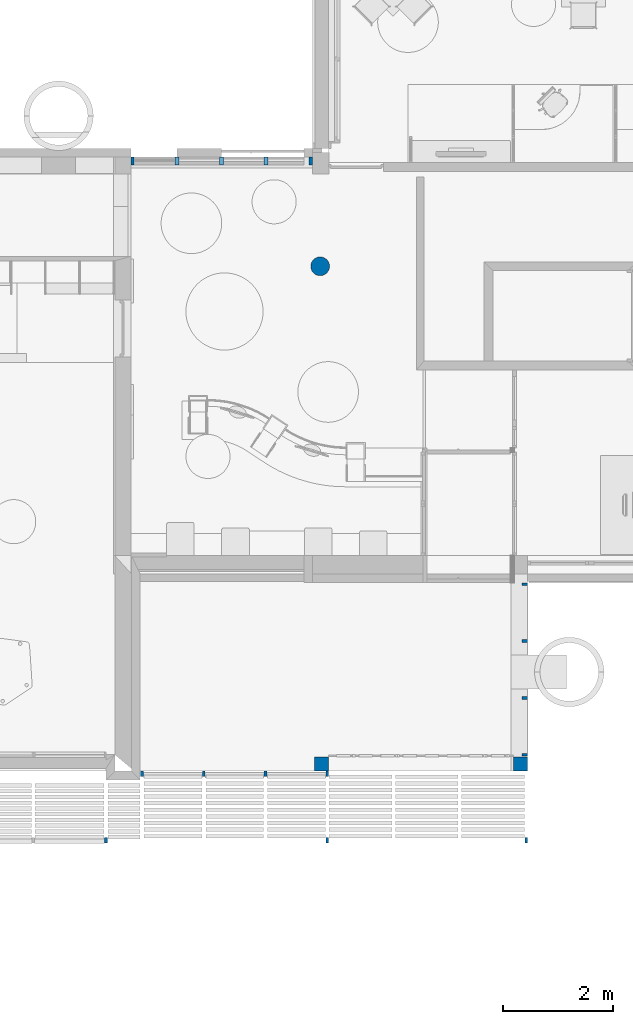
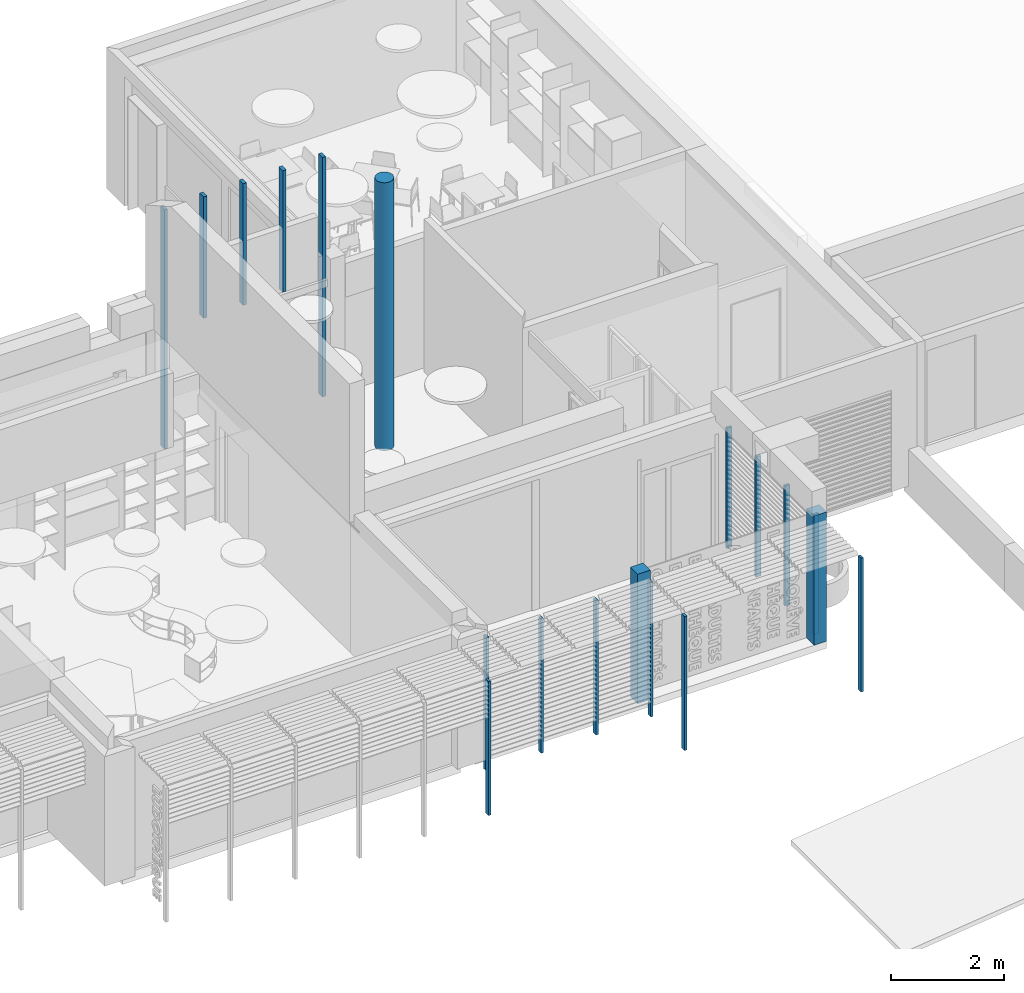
# One storey, part 5 of 64: 19 columns.
"""IFC2X3 building model written with IfcOpenShell, lengths in metres."""

from ifc_helpers import new_model, entity, si_unit, converted_unit, derived_unit, direction, frame, frame_2d, origin, origin_2d_with_axis, place, context, subcontext, project, spatial, rectangle, circle, extrude, source, transform, mapped, material, material_list, type_object, type_shapes, element, save


model = new_model("IFC2X3")

# Units and contexts
model_context = context("Model", 3, precision=1e-05, world=origin(), true_north=direction((6.123031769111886e-17, 1.0)))
body_context = subcontext(model_context, "Body", "Model", "MODEL_VIEW")
ifc_project = project(units=[si_unit("LENGTHUNIT", "METRE"), si_unit("AREAUNIT", "SQUARE_METRE"), si_unit("VOLUMEUNIT", "CUBIC_METRE"), converted_unit("PLANEANGLEUNIT", "DEGREE", entity("IfcRatioMeasure", 0.017453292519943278), si_unit("PLANEANGLEUNIT", "RADIAN"), dimensions=[0, 0, 0, 0, 0, 0, 0]), si_unit("MASSUNIT", "GRAM", prefix="KILO"), derived_unit("MASSDENSITYUNIT", [(si_unit("MASSUNIT", "GRAM", prefix="KILO"), 1), (si_unit("LENGTHUNIT", "METRE"), -3)]), derived_unit("MOMENTOFINERTIAUNIT", [(si_unit("LENGTHUNIT", "METRE"), 4)]), si_unit("TIMEUNIT", "SECOND"), si_unit("FREQUENCYUNIT", "HERTZ"), si_unit("THERMODYNAMICTEMPERATUREUNIT", "DEGREE_CELSIUS"), derived_unit("THERMALTRANSMITTANCEUNIT", [(si_unit("MASSUNIT", "GRAM", prefix="KILO"), 1), (si_unit("THERMODYNAMICTEMPERATUREUNIT", "KELVIN"), -1), (si_unit("TIMEUNIT", "SECOND"), -3)]), derived_unit("THERMALCONDUCTANCEUNIT", [(si_unit("MASSUNIT", "GRAM", prefix="KILO"), 1), (si_unit("LENGTHUNIT", "METRE"), 1), (si_unit("THERMODYNAMICTEMPERATUREUNIT", "KELVIN"), -1), (si_unit("TIMEUNIT", "SECOND"), -3)]), derived_unit("VOLUMETRICFLOWRATEUNIT", [(si_unit("LENGTHUNIT", "METRE"), 3), (si_unit("TIMEUNIT", "SECOND"), -1)]), derived_unit("MASSFLOWRATEUNIT", [(si_unit("MASSUNIT", "GRAM", prefix="KILO"), 1), (si_unit("TIMEUNIT", "SECOND"), -1)]), derived_unit("ROTATIONALFREQUENCYUNIT", [(si_unit("TIMEUNIT", "SECOND"), -1)]), si_unit("ELECTRICCURRENTUNIT", "AMPERE"), si_unit("ELECTRICVOLTAGEUNIT", "VOLT"), si_unit("POWERUNIT", "WATT"), si_unit("FORCEUNIT", "NEWTON", prefix="KILO"), si_unit("ILLUMINANCEUNIT", "LUX"), si_unit("LUMINOUSFLUXUNIT", "LUMEN"), si_unit("LUMINOUSINTENSITYUNIT", "CANDELA"), derived_unit("USERDEFINED", [(si_unit("MASSUNIT", "GRAM", prefix="KILO"), -1), (si_unit("LENGTHUNIT", "METRE"), -2), (si_unit("TIMEUNIT", "SECOND"), 3), (si_unit("LUMINOUSFLUXUNIT", "LUMEN"), 1)]), derived_unit("USERDEFINED", [(si_unit("MASSUNIT", "GRAM", prefix="KILO"), 1), (si_unit("LENGTHUNIT", "METRE"), 3), (si_unit("TIMEUNIT", "SECOND"), -3), (si_unit("ELECTRICCURRENTUNIT", "AMPERE"), -2)]), derived_unit("USERDEFINED", [(si_unit("LENGTHUNIT", "METRE"), 2), (si_unit("TIMEUNIT", "SECOND"), -2)]), derived_unit("SOUNDPOWERUNIT", [(si_unit("MASSUNIT", "GRAM", prefix="KILO"), 1), (si_unit("LENGTHUNIT", "METRE"), 2), (si_unit("TIMEUNIT", "SECOND"), -3)]), derived_unit("SOUNDPRESSUREUNIT", [(si_unit("MASSUNIT", "GRAM", prefix="KILO"), 1), (si_unit("LENGTHUNIT", "METRE"), -1), (si_unit("TIMEUNIT", "SECOND"), -2)]), derived_unit("LINEARVELOCITYUNIT", [(si_unit("LENGTHUNIT", "METRE"), 1), (si_unit("TIMEUNIT", "SECOND"), -1)]), si_unit("PRESSUREUNIT", "PASCAL"), derived_unit("USERDEFINED", [(si_unit("LENGTHUNIT", "METRE"), -2), (si_unit("MASSUNIT", "GRAM", prefix="KILO"), 1), (si_unit("TIMEUNIT", "SECOND"), -2)]), derived_unit("LINEARFORCEUNIT", [(si_unit("MASSUNIT", "GRAM", prefix="KILO"), 1), (si_unit("LENGTHUNIT", "METRE"), 1), (si_unit("TIMEUNIT", "SECOND"), -2), (si_unit("LENGTHUNIT", "METRE"), -1)]), derived_unit("PLANARFORCEUNIT", [(si_unit("MASSUNIT", "GRAM", prefix="KILO"), 1), (si_unit("LENGTHUNIT", "METRE"), 1), (si_unit("TIMEUNIT", "SECOND"), -2), (si_unit("LENGTHUNIT", "METRE"), -2)]), derived_unit("SPECIFICHEATCAPACITYUNIT", [(si_unit("LENGTHUNIT", "METRE"), 2), (si_unit("TIMEUNIT", "SECOND"), -2), (si_unit("THERMODYNAMICTEMPERATUREUNIT", "KELVIN"), -1)]), derived_unit("VAPORPERMEABILITYUNIT", [(si_unit("TIMEUNIT", "SECOND"), 1), (si_unit("LENGTHUNIT", "METRE"), -1)]), derived_unit("DYNAMICVISCOSITYUNIT", [(si_unit("MASSUNIT", "GRAM", prefix="KILO"), 1), (si_unit("LENGTHUNIT", "METRE"), -1), (si_unit("TIMEUNIT", "SECOND"), -1)]), derived_unit("THERMALEXPANSIONCOEFFICIENTUNIT", [(si_unit("THERMODYNAMICTEMPERATUREUNIT", "KELVIN"), -1)])], contexts=[model_context])

# Site, building, storey
site_placement = place(None, origin())
site = spatial("IfcSite", under=ifc_project, at=site_placement, Name="Default", CompositionType="ELEMENT")
building_placement = place(site_placement, origin())
building = spatial("IfcBuilding", under=site, at=building_placement, CompositionType="ELEMENT")
storey_placement = place(building_placement, origin())
storey = spatial("IfcBuildingStorey", under=building, at=storey_placement, Name="REZ-DE-CHAUSSÉE", CompositionType="ELEMENT", Elevation=0.0)

# Columns
ifc_material_1 = material(Name="Peinture - Gris foncé")
column_type_1 = type_object("IfcColumnType", Name="Pot-006 56846:Pot-006 56846", PredefinedType="COLUMN", material=ifc_material_1)
shared_shape_1 = source(origin(), body_context, "Body", "SweptSolid", [
    extrude(rectangle(XDim=0.1, YDim=0.05, at=origin_2d_with_axis()), frame((0.0, 0.0, -0.30000000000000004), z_axis=(0.0, 0.0, 1.0), x_axis=(0.0, -1.0, 0.0)), (0.0, 0.0, 1.0), 2.8999999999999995),
])
type_shapes(column_type_1, [shared_shape_1])
for number, where, name in (
    (1, (117.585746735, 4.11720948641, 0.0), "Pot-006"),
    (2, (124.55575226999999, 2.9172094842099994, 0.0), "Pot-006"),
    (3, (120.945746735, 2.9172094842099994, 0.0), "Pot-006"),
    (4, (118.705746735, 4.11720948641, 0.0), "Pot-006"),
    (5, (119.825746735, 4.11720948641, 0.0), "Pot-006"),
    (6, (116.93075228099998, 2.9172094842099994, 0.0), "Pot-006"),
    (7, (120.945746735, 4.11720948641, 0.0), "Pot-006"),
):
    element("IfcColumn", number, at=place(storey_placement, frame(where)), inside=storey, type_object=column_type_1, material=ifc_material_1, Name=name, ObjectType="Pot-006 56846:Pot-006 56846", context=body_context, shape_type="MappedRepresentation", body=[
        mapped(shared_shape_1, transform((0.0, 0.0, 0.0), scale=1.0)),
    ])
column_type_2 = type_object("IfcColumnType", Name="Pot-006 103892:Pot-006 103892", PredefinedType="COLUMN", material=ifc_material_1)
shared_shape_2 = source(origin(), body_context, "Body", "SweptSolid", [
    extrude(rectangle(XDim=0.05, YDim=0.1, at=origin_2d_with_axis()), frame((0.0, 0.0, 0.0), z_axis=(0.0, 0.0, 1.0), x_axis=(0.0, -1.0, 0.0)), (0.0, 0.0, 1.0), 2.6),
])
type_shapes(column_type_2, [shared_shape_2])
for number, where, name in (
    (8, (124.530752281, 4.46720948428, 0.0), "Pot-006"),
    (9, (124.530752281, 5.49720948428, 0.0), "Pot-006"),
    (10, (124.530752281, 6.527209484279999, 0.0), "Pot-006"),
    (11, (124.530752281, 7.55720948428, 0.0), "Pot-006"),
):
    element("IfcColumn", number, at=place(storey_placement, frame(where)), inside=storey, type_object=column_type_2, material=ifc_material_1, Name=name, ObjectType="Pot-006 103892:Pot-006 103892", context=body_context, shape_type="MappedRepresentation", body=[
        mapped(shared_shape_2, transform((0.0, 0.0, 0.0), scale=1.0)),
    ])
ifc_material_2 = material(Name="Bois - Chêne clair")
column_type_3 = type_object("IfcColumnType", Name="Pot-008 40407:Pot-008 40407", PredefinedType="COLUMN", material=ifc_material_2)
shared_shape_3 = source(origin(), body_context, "Body", "SweptSolid", [
    extrude(rectangle(XDim=0.14, YDim=0.07, at=origin_2d_with_axis()), frame((0.0, 0.0, 2.55), z_axis=(0.0, 0.0, 1.0), x_axis=(0.0, -1.0, 0.0)), (0.0, 0.0, 1.0), 2.63),
])
type_shapes(column_type_3, [shared_shape_3])
for number, where, name in (
    (12, (118.21575228, 15.237209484, 0.0), "Pot-007"),
    (13, (119.02575227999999, 15.2372094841, 0.0), "Pot-008"),
    (14, (119.83575227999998, 15.2372094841, 0.0), "Pot-008"),
):
    element("IfcColumn", number, at=place(storey_placement, frame(where)), inside=storey, type_object=column_type_3, material=ifc_material_2, Name=name, ObjectType="Pot-008 40407:Pot-008 40407", context=body_context, shape_type="MappedRepresentation", body=[
        mapped(shared_shape_3, transform((0.0, 0.0, 0.0), scale=1.0)),
    ])
column_type_4 = type_object("IfcColumnType", Name="Pot-008 40407:Pot-008 40407", PredefinedType="COLUMN", material=ifc_material_2)
shared_shape_4 = source(origin(), body_context, "Body", "SweptSolid", [
    extrude(rectangle(XDim=0.14, YDim=0.07, at=origin_2d_with_axis()), frame((0.0, 0.0, 0.0), z_axis=(0.0, 0.0, 1.0), x_axis=(0.0, -1.0, 0.0)), (0.0, 0.0, 1.0), 5.18),
])
type_shapes(column_type_4, [shared_shape_4])
column_1_placement = place(storey_placement, frame((120.64575227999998, 15.2372094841, 0.0)))
element("IfcColumn", 15, at=column_1_placement, inside=storey, type_object=column_type_4, material=ifc_material_2, Name="Pot-008", ObjectType="Pot-008 40407:Pot-008 40407", context=body_context, shape_type="MappedRepresentation", body=[
    mapped(shared_shape_4, transform((0.0, 0.0, 0.0), scale=1.0)),
])
ifc_material_3 = material(Name="Enduit - Beige nature")
column_type_5 = type_object("IfcColumnType", Name="Pot-003 25818:Pot-003 25818", PredefinedType="COLUMN", material=ifc_material_3)
shared_shape_5 = source(origin(), body_context, "Body", "SweptSolid", [
    extrude(rectangle(XDim=0.25999999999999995, YDim=0.25999999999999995, at=origin_2d_with_axis()), frame((0.0, 0.0, 0.0), z_axis=(0.0, 0.0, 1.0), x_axis=(0.0, -1.0, 0.0)), (0.0, 0.0, 1.0), 2.8),
])
type_shapes(column_type_5, [shared_shape_5])
for number, where, name in (
    (16, (124.450752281, 4.297209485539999, 0.0), "Pot-004"),
    (17, (120.84074673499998, 4.29720948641, 0.0), "Pot-003"),
):
    element("IfcColumn", number, at=place(storey_placement, frame(where)), inside=storey, type_object=column_type_5, material=ifc_material_3, Name=name, ObjectType="Pot-003 25818:Pot-003 25818", context=body_context, shape_type="MappedRepresentation", body=[
        mapped(shared_shape_5, transform((0.0, 0.0, 0.0), scale=1.0)),
    ])
ifc_material_4 = material(Name="Surface-Blanc")
column_type_6 = type_object("IfcColumnType", Name="Pot-001 17357:Pot-001 17357", PredefinedType="COLUMN", material=ifc_material_4)
shared_shape_6 = source(origin(), body_context, "Body", "SweptSolid", [
    extrude(circle(Radius=0.17, at=frame_2d((-1.6919798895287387e-17, -2.746069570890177e-16), x_axis=(1.0, 0.0))), origin(), (0.0, 0.0, 1.0), 5.799999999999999),
])
type_shapes(column_type_6, [shared_shape_6])
column_2_placement = place(storey_placement, frame((120.815846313, 13.327209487, 0.0)))
element("IfcColumn", 18, at=column_2_placement, inside=storey, type_object=column_type_6, material=ifc_material_4, Name="Pot-003", ObjectType="Pot-001 17357:Pot-001 17357", context=body_context, shape_type="MappedRepresentation", body=[
    mapped(shared_shape_6, transform((0.0, 0.0, 0.0), scale=1.0)),
])
ifc_material_5 = material(Name="<Unnamed>")
ifc_material_list = material_list([ifc_material_5, ifc_material_2])
column_type_7 = type_object("IfcColumnType", Name="Pot-010 24125:Pot-010 24125", PredefinedType="COLUMN", material=ifc_material_list)
shared_shape_7 = source(origin(), body_context, "Body", "SweptSolid", [
    extrude(rectangle(XDim=0.14, YDim=0.06, at=origin_2d_with_axis()), frame((0.0, 0.0, 0.0), z_axis=(0.0, 0.0, 1.0), x_axis=(0.0, -1.0, 0.0)), (0.0, 0.0, 1.0), 5.18),
])
type_shapes(column_type_7, [shared_shape_7])
column_3_placement = place(storey_placement, frame((117.41075228, 15.2372094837, 0.0)))
element("IfcColumn", 19, at=column_3_placement, inside=storey, type_object=column_type_7, material=ifc_material_2, Name="Pot-010", ObjectType="Pot-010 24125:Pot-010 24125", context=body_context, shape_type="MappedRepresentation", body=[
    mapped(shared_shape_7, transform((0.0, 0.0, 0.0), scale=1.0)),
])

save(model, "model.ifc")
